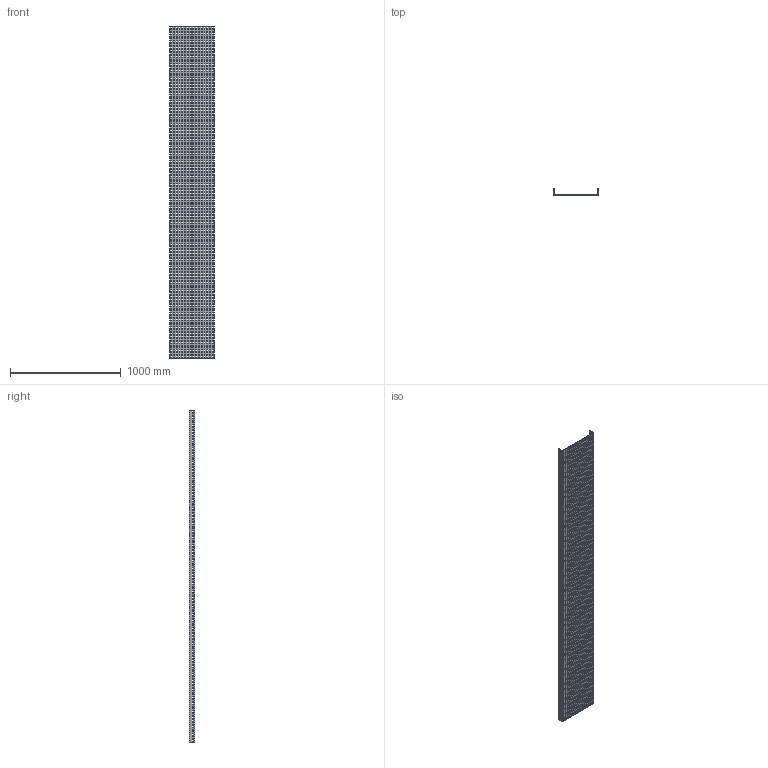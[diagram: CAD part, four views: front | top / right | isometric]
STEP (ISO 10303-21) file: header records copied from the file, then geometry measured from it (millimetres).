
FILE_DESCRIPTION (( 'STEP AP214' ), '1' );
FILE_NAME ('01F3B400.step', '2025-02-21T13:20:41', ( '' ), ( '' ), 'SwSTEP 2.0', 'SolidWorks 2023', '' );
FILE_SCHEMA (( 'AUTOMOTIVE_DESIGN' ));
Length unit declared in the file: millimetre
Products named in the file (1): 01F3B400
Bounding box: 404 x 52 x 3000 mm (x, y, z)
Volume: 4466700 mm3; surface area: 2867211 mm2
Topology: 1 solids, 1 shells, 5194 faces, 15576 edges, 10384 vertices
Faces by surface type: plane 5194
Entity records: 176567 total; most frequent: CARTESIAN_POINT 31155, ORIENTED_EDGE 31152, DIRECTION 25966, EDGE_CURVE 15576, LINE 15576, VECTOR 15576, VERTEX_POINT 10384, EDGE_LOOP 7786
